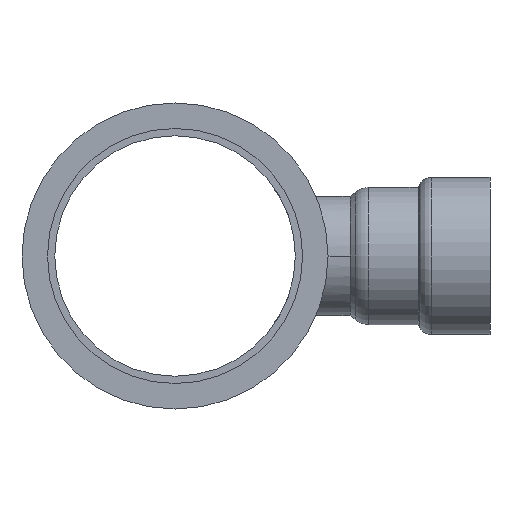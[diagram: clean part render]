
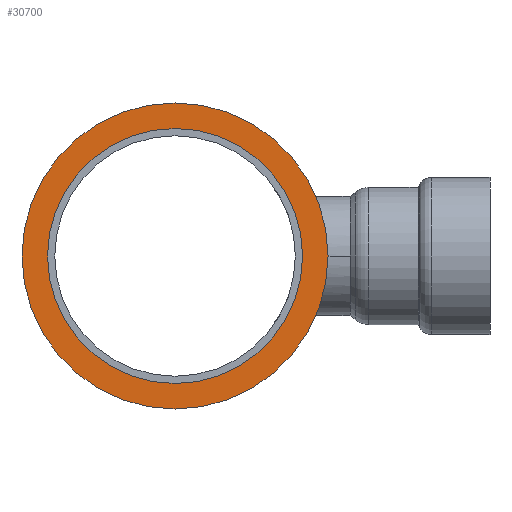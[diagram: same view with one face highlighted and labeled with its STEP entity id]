
A CAD part, left-side view. The second image highlights one B-rep face of the part: STEP entity #30700.
In plain terms, the highlighted planar face has unit normal (-1, 0, 0).
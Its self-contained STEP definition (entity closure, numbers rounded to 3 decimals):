
#30220=CARTESIAN_POINT('',(53.136,49.095,30.75));
#30230=VERTEX_POINT('',#30220);
#30310=CARTESIAN_POINT('',(53.136,49.095,-30.75));
#30320=VERTEX_POINT('',#30310);
#30350=CARTESIAN_POINT('',(53.136,49.095,
0.));
#30360=DIRECTION('',(1.,0.,0.));
#30370=DIRECTION('',(0.,0.,1.));
#30380=AXIS2_PLACEMENT_3D('',#30350,#30360,#30370);
#30390=CIRCLE('',#30380,30.75);
#30400=EDGE_CURVE('',#30320,#30230,#30390,.T.);
#30450=CARTESIAN_POINT('',(53.136,49.095,-35.85));
#30460=DIRECTION('',(1.,0.,0.));
#30470=DIRECTION('',(0.,0.,1.));
#30480=AXIS2_PLACEMENT_3D('',#30450,#30460,#30470);
#30490=PLANE('',#30480);
#30500=EDGE_CURVE('',#30230,#30320,#30390,.T.);
#30510=ORIENTED_EDGE('',*,*,#30500,.T.);
#30520=ORIENTED_EDGE('',*,*,#30400,.T.);
#30530=EDGE_LOOP('',(#30520,#30510));
#30540=FACE_BOUND('',#30530,.T.);
#30550=CARTESIAN_POINT('',(53.136,49.095,
0.));
#30560=DIRECTION('',(1.,0.,0.));
#30570=DIRECTION('',(0.,0.,-1.));
#30580=AXIS2_PLACEMENT_3D('',#30550,#30560,#30570);
#30590=CIRCLE('',#30580,36.9);
#30600=CARTESIAN_POINT('',(53.136,49.095,-36.9));
#30610=VERTEX_POINT('',#30600);
#30620=CARTESIAN_POINT('',(53.136,49.095,36.9));
#30630=VERTEX_POINT('',#30620);
#30640=EDGE_CURVE('',#30610,#30630,#30590,.T.);
#30650=ORIENTED_EDGE('',*,*,#30640,.F.);
#30660=EDGE_CURVE('',#30630,#30610,#30590,.T.);
#30670=ORIENTED_EDGE('',*,*,#30660,.F.);
#30680=EDGE_LOOP('',(#30670,#30650));
#30690=FACE_OUTER_BOUND('',#30680,.T.);
#30700=ADVANCED_FACE('',(#30540,#30690),#30490,.F.);
